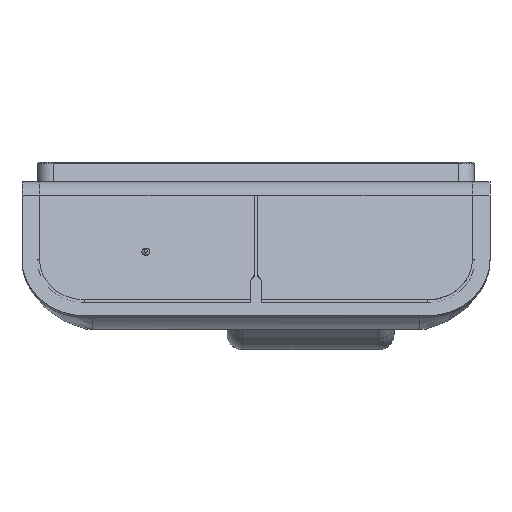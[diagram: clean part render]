
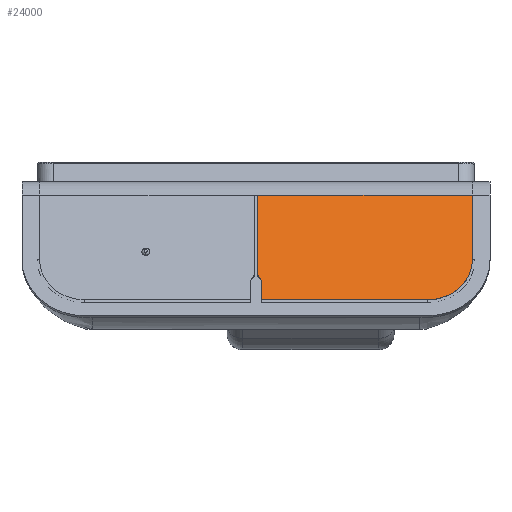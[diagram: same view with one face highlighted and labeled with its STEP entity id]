
A CAD part, top view. The second image highlights one B-rep face of the part: STEP entity #24000.
In plain terms, the highlighted planar face has unit normal (0, 0.423, 0.906).
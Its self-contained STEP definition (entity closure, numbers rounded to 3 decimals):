
#205 = CARTESIAN_POINT ( 'NONE',  ( 30., 29.268, 11.383 ) ) ;
#366 = CARTESIAN_POINT ( 'NONE',  ( 0.256, 18.826, 16.252 ) ) ;
#563 = EDGE_CURVE ( 'NONE', #16099, #14750, #7858, .T. ) ;
#642 = CARTESIAN_POINT ( 'NONE',  ( 22.753, 15.819, 17.654 ) ) ;
#1187 = EDGE_CURVE ( 'NONE', #14271, #26369, #28493, .T. ) ;
#1420 = ORIENTED_EDGE ( 'NONE', *, *, #24118, .F. ) ;
#1636 = EDGE_CURVE ( 'NONE', #26369, #29472, #5494, .T. ) ;
#2160 = CARTESIAN_POINT ( 'NONE',  ( 27.75, 21.031, 15.224 ) ) ;
#2277 = CARTESIAN_POINT ( 'NONE',  ( 0.4, 18.669, 16.326 ) ) ;
#2294 = CARTESIAN_POINT ( 'NONE',  ( 0.266, 18.808, 16.26 ) ) ;
#2500 = VECTOR ( 'NONE', #19300, 1000. ) ;
#2502 = CARTESIAN_POINT ( 'NONE',  ( 0.363, 18.695, 16.313 ) ) ;
#2594 = CARTESIAN_POINT ( 'NONE',  ( 0.286, 18.779, 16.274 ) ) ;
#2991 = CARTESIAN_POINT ( 'NONE',  ( 0.2, 19.032, 16.156 ) ) ;
#3317 = DIRECTION ( 'NONE',  ( -1., 0., 0. ) ) ;
#3465 = EDGE_CURVE ( 'NONE', #26357, #14067, #4481, .T. ) ;
#4481 = B_SPLINE_CURVE_WITH_KNOTS ( 'NONE', 3,
 ( #23681, #23972, #9669, #9872, #28562, #26033, #14599, #26326, #642, #24068 ),
 .UNSPECIFIED., .F., .F.,
 ( 4, 2, 2, 2, 4 ),
 ( 0., 0.25, 0.5, 0.75, 1. ),
 .UNSPECIFIED. ) ;
#5280 = DIRECTION ( 'NONE',  ( 0., 0.906, -0.423 ) ) ;
#5360 = EDGE_CURVE ( 'NONE', #14067, #14271, #6120, .T. ) ;
#5494 = CIRCLE ( 'NONE', #15262, 0.65 ) ;
#5804 = CARTESIAN_POINT ( 'NONE',  ( 0.2, 29.086, 11.465 ) ) ;
#6057 = CARTESIAN_POINT ( 'NONE',  ( 0.65, 31., 10.575 ) ) ;
#6120 = LINE ( 'NONE', #17278, #13046 ) ;
#6201 = CARTESIAN_POINT ( 'NONE',  ( 0.2, 29.146, 11.437 ) ) ;
#6641 = CARTESIAN_POINT ( 'NONE',  ( 0.2, 19.032, 16.156 ) ) ;
#7224 = DIRECTION ( 'NONE',  ( 0., -0.423, -0.906 ) ) ;
#7858 = LINE ( 'NONE', #205, #22484 ) ;
#8438 = EDGE_CURVE ( 'NONE', #15983, #21199, #21828, .T. ) ;
#9597 = CARTESIAN_POINT ( 'NONE',  ( 0.272, 18.799, 16.265 ) ) ;
#9669 = CARTESIAN_POINT ( 'NONE',  ( 27.6, 19.667, 15.86 ) ) ;
#9697 = CARTESIAN_POINT ( 'NONE',  ( 0.216, 18.897, 16.219 ) ) ;
#9872 = CARTESIAN_POINT ( 'NONE',  ( 27.024, 18.406, 16.448 ) ) ;
#11093 = CARTESIAN_POINT ( 'NONE',  ( 22., 15.819, 17.654 ) ) ;
#11527 = ORIENTED_EDGE ( 'NONE', *, *, #5360, .F. ) ;
#11942 = ORIENTED_EDGE ( 'NONE', *, *, #3465, .F. ) ;
#12500 = CARTESIAN_POINT ( 'NONE',  ( 27.75, 29.268, 11.383 ) ) ;
#13046 = VECTOR ( 'NONE', #3317, 1000. ) ;
#13131 = CARTESIAN_POINT ( 'NONE',  ( 0.2, 29.268, 11.383 ) ) ;
#13214 = B_SPLINE_CURVE_WITH_KNOTS ( 'NONE', 3,
 ( #5804, #6201, #20077, #13131 ),
 .UNSPECIFIED., .F., .F.,
 ( 4, 4 ),
 ( 0., 1. ),
 .UNSPECIFIED. ) ;
#14067 = VERTEX_POINT ( 'NONE', #11093 ) ;
#14271 = VERTEX_POINT ( 'NONE', #15713 ) ;
#14599 = CARTESIAN_POINT ( 'NONE',  ( 24.896, 16.477, 17.348 ) ) ;
#14750 = VERTEX_POINT ( 'NONE', #12500 ) ;
#15262 = AXIS2_PLACEMENT_3D ( 'NONE', #15847, #27859, #22988 ) ;
#15499 = LINE ( 'NONE', #29872, #30105 ) ;
#15568 = EDGE_CURVE ( 'NONE', #29472, #15983, #28577, .T. ) ;
#15713 = CARTESIAN_POINT ( 'NONE',  ( 0.65, 15.819, 17.654 ) ) ;
#15847 = CARTESIAN_POINT ( 'NONE',  ( 0., 18.204, 16.542 ) ) ;
#15932 = CARTESIAN_POINT ( 'NONE',  ( 0.2, 29.268, 11.383 ) ) ;
#15983 = VERTEX_POINT ( 'NONE', #6641 ) ;
#16099 = VERTEX_POINT ( 'NONE', #15932 ) ;
#16558 = CARTESIAN_POINT ( 'NONE',  ( 0.296, 18.765, 16.28 ) ) ;
#17278 = CARTESIAN_POINT ( 'NONE',  ( 30., 15.819, 17.654 ) ) ;
#18144 = ORIENTED_EDGE ( 'NONE', *, *, #15568, .F. ) ;
#18378 = DIRECTION ( 'NONE',  ( 0., 0.906, -0.423 ) ) ;
#18901 = CARTESIAN_POINT ( 'NONE',  ( 0.257, 18.824, 16.253 ) ) ;
#19047 = PLANE ( 'NONE',  #28225 ) ;
#19300 = DIRECTION ( 'NONE',  ( 0., 0.906, -0.423 ) ) ;
#20077 = CARTESIAN_POINT ( 'NONE',  ( 0.2, 29.208, 11.411 ) ) ;
#21150 = CARTESIAN_POINT ( 'NONE',  ( 0.333, 18.723, 16.3 ) ) ;
#21199 = VERTEX_POINT ( 'NONE', #27142 ) ;
#21499 = DIRECTION ( 'NONE',  ( 1., 0., 0. ) ) ;
#21828 = LINE ( 'NONE', #2991, #2500 ) ;
#22305 = VECTOR ( 'NONE', #18378, 1000. ) ;
#22484 = VECTOR ( 'NONE', #21499, 1000. ) ;
#22988 = DIRECTION ( 'NONE',  ( 0., 0.906, -0.423 ) ) ;
#23357 = CARTESIAN_POINT ( 'NONE',  ( 0.65, 18.204, 16.542 ) ) ;
#23466 = ORIENTED_EDGE ( 'NONE', *, *, #563, .F. ) ;
#23681 = CARTESIAN_POINT ( 'NONE',  ( 27.75, 21.031, 15.224 ) ) ;
#23703 = CARTESIAN_POINT ( 'NONE',  ( 0.26, 18.818, 16.256 ) ) ;
#23811 = EDGE_LOOP ( 'NONE', ( #23466, #1420, #26446, #18144, #26706, #27341, #11527, #11942, #25265 ) ) ;
#23972 = CARTESIAN_POINT ( 'NONE',  ( 27.75, 20.348, 15.542 ) ) ;
#24000 = ADVANCED_FACE ( 'NONE', ( #24275 ), #19047, .F. ) ;
#24068 = CARTESIAN_POINT ( 'NONE',  ( 22., 15.819, 17.654 ) ) ;
#24118 = EDGE_CURVE ( 'NONE', #21199, #16099, #13214, .T. ) ;
#24275 = FACE_OUTER_BOUND ( 'NONE', #23811, .T. ) ;
#25265 = ORIENTED_EDGE ( 'NONE', *, *, #27220, .F. ) ;
#25742 = CARTESIAN_POINT ( 'NONE',  ( 0.4, 18.669, 16.326 ) ) ;
#25907 = CARTESIAN_POINT ( 'NONE',  ( 30., 31., 10.575 ) ) ;
#26033 = CARTESIAN_POINT ( 'NONE',  ( 25.534, 16.863, 17.167 ) ) ;
#26054 = CARTESIAN_POINT ( 'NONE',  ( 0.2, 18.968, 16.186 ) ) ;
#26326 = CARTESIAN_POINT ( 'NONE',  ( 23.505, 15.955, 17.591 ) ) ;
#26357 = VERTEX_POINT ( 'NONE', #2160 ) ;
#26369 = VERTEX_POINT ( 'NONE', #23357 ) ;
#26446 = ORIENTED_EDGE ( 'NONE', *, *, #8438, .F. ) ;
#26706 = ORIENTED_EDGE ( 'NONE', *, *, #1636, .F. ) ;
#27142 = CARTESIAN_POINT ( 'NONE',  ( 0.2, 29.086, 11.465 ) ) ;
#27220 = EDGE_CURVE ( 'NONE', #14750, #26357, #15499, .T. ) ;
#27341 = ORIENTED_EDGE ( 'NONE', *, *, #1187, .F. ) ;
#27859 = DIRECTION ( 'NONE',  ( 0., 0.423, 0.906 ) ) ;
#28225 = AXIS2_PLACEMENT_3D ( 'NONE', #25907, #7224, #5280 ) ;
#28493 = LINE ( 'NONE', #6057, #22305 ) ;
#28562 = CARTESIAN_POINT ( 'NONE',  ( 26.598, 17.828, 16.718 ) ) ;
#28577 = B_SPLINE_CURVE_WITH_KNOTS ( 'NONE', 3,
 ( #25742, #2502, #21150, #16558, #2594, #9597, #2294, #23703, #18901, #366, #9697, #26054, #30252 ),
 .UNSPECIFIED., .F., .F.,
 ( 4, 2, 2, 1, 2, 2, 4 ),
 ( 0., 0.25, 0.375, 0.438, 0.469, 0.5, 1. ),
 .UNSPECIFIED. ) ;
#29472 = VERTEX_POINT ( 'NONE', #2277 ) ;
#29872 = CARTESIAN_POINT ( 'NONE',  ( 27.75, 13.78, 18.605 ) ) ;
#30068 = DIRECTION ( 'NONE',  ( 0., -0.906, 0.423 ) ) ;
#30105 = VECTOR ( 'NONE', #30068, 1000. ) ;
#30252 = CARTESIAN_POINT ( 'NONE',  ( 0.2, 19.032, 16.156 ) ) ;
